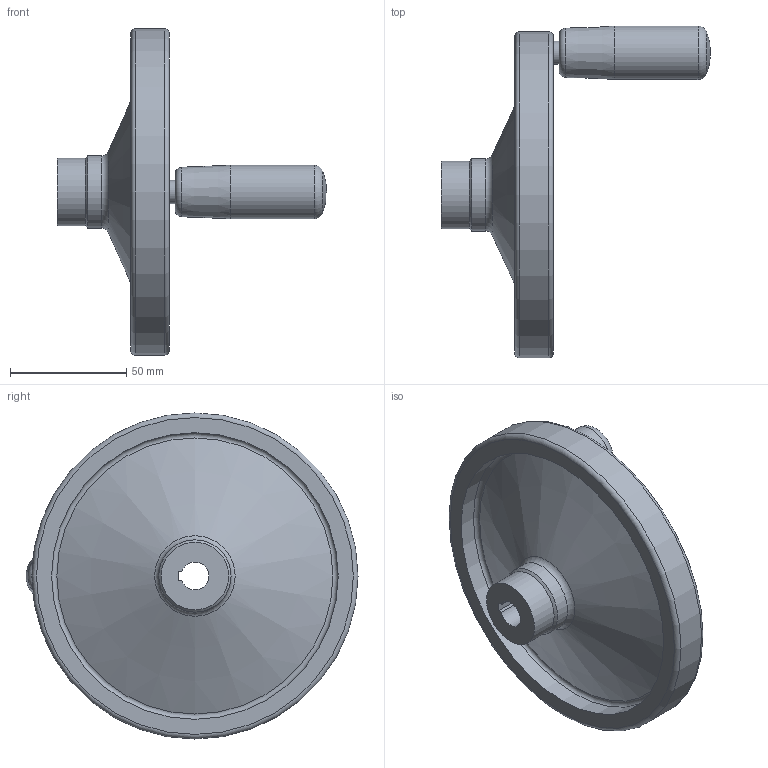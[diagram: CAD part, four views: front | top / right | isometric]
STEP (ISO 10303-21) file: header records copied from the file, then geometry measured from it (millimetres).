
FILE_DESCRIPTION( ( 'STEP AP203' ), '1' );
FILE_NAME( 'C:/Temp/Ganter_Step_05_03_2020/data/1_3/gn_321_5/gn_321_5_d/gn_321_5_d_dr/Safety handwheel GN 321.5-140-K12-D-DR.stp', '2020-03-05T10:42:40', ( 'License CC BY-ND 4.0' ), ( 'CADENAS' ), ' ', 'PARTsolutions', ' ' );
FILE_SCHEMA( ( 'CONFIG_CONTROL_DESIGN' ) );
Length unit declared in the file: millimetre
Products named in the file (1): _Safety handwheel GN 321.5-140-K12-D-DR
Bounding box: 115.5 x 142.5 x 140 mm (x, y, z)
Volume: 174097 mm3; surface area: 53719 mm2
Topology: 1 solids, 1 shells, 31 faces, 61 edges, 36 vertices
Faces by surface type: cylinder 9, plane 9, torus 7, cone 5, sphere 1
Full cylindrical faces by diameter (mm): 10 x1, 23 x1, 29 x2, 31 x1, 104 x1, 123 x1, 140 x1
Entity records: 720 total; most frequent: DIRECTION 130, CARTESIAN_POINT 105, ORIENTED_EDGE 76, AXIS2_PLACEMENT_3D 60, EDGE_LOOP 58, FACE_OUTER_BOUND 46, EDGE_CURVE 38, VERTEX_POINT 35
